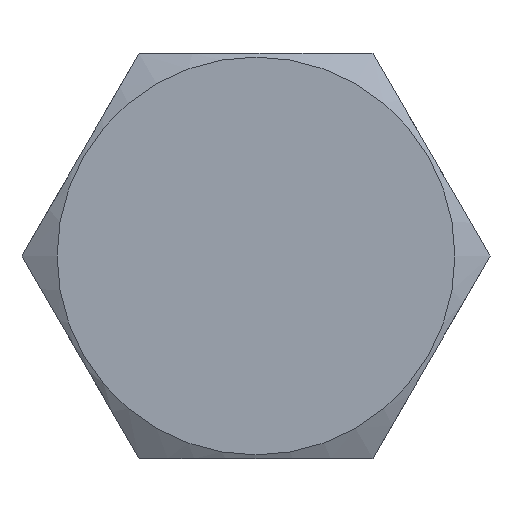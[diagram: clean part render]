
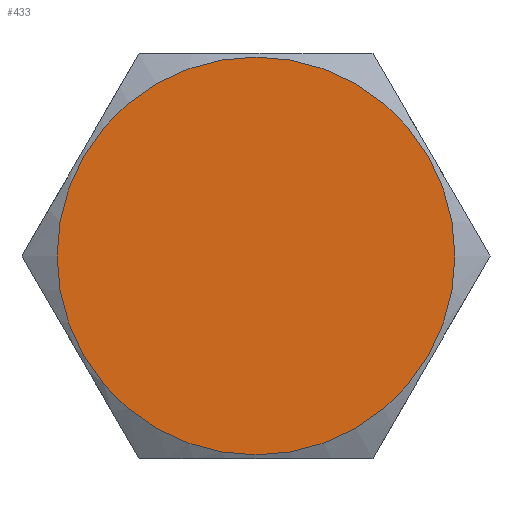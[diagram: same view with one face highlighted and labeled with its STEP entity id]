
A CAD part, front view. The second image highlights one B-rep face of the part: STEP entity #433.
In plain terms, the highlighted planar face has unit normal (0, -1, 0).
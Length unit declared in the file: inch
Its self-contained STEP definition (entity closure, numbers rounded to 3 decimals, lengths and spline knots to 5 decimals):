
#44=PLANE('',#499);
#74=FACE_OUTER_BOUND('',#102,.T.);
#102=EDGE_LOOP('',(#391));
#126=CIRCLE('',#498,0.36813);
#213=VERTEX_POINT('',#793);
#274=EDGE_CURVE('',#213,#213,#126,.T.);
#391=ORIENTED_EDGE('',*,*,#274,.F.);
#433=ADVANCED_FACE('',(#74),#44,.T.);
#498=AXIS2_PLACEMENT_3D('',#794,#620,#621);
#499=AXIS2_PLACEMENT_3D('',#796,#623,#624);
#620=DIRECTION('center_axis',(0.,1.,0.));
#621=DIRECTION('ref_axis',(0.,0.,1.));
#623=DIRECTION('center_axis',(0.,-1.,0.));
#624=DIRECTION('ref_axis',(0.,0.,-1.));
#793=CARTESIAN_POINT('',(0.,0.,-0.36813));
#794=CARTESIAN_POINT('Origin',(0.,0.,0.));
#796=CARTESIAN_POINT('Origin',(0.,0.,0.));
